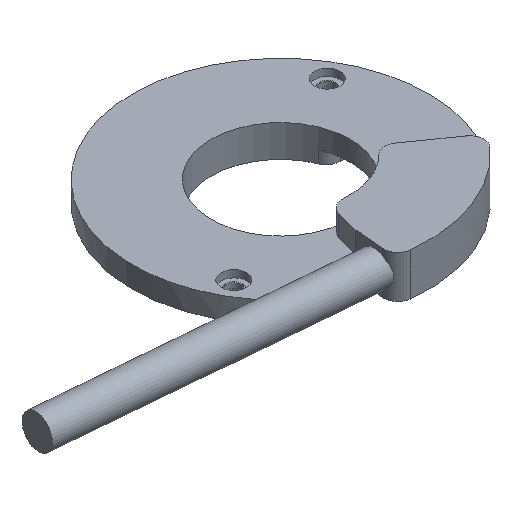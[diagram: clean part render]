
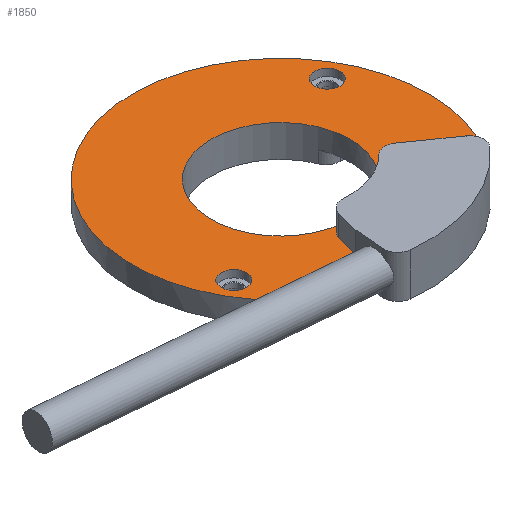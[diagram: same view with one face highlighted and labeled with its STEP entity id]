
A CAD part, isometric view. The second image highlights one B-rep face of the part: STEP entity #1850.
In plain terms, the highlighted planar face has unit normal (0, 0, 1).
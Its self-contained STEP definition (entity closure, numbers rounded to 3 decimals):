
#195=LINE('',#3244,#308);
#196=LINE('',#3246,#309);
#197=LINE('',#3254,#310);
#308=VECTOR('',#2658,1000.);
#309=VECTOR('',#2659,1000.);
#310=VECTOR('',#2666,1000.);
#677=ORIENTED_EDGE('',*,*,#1048,.T.);
#678=ORIENTED_EDGE('',*,*,#1049,.T.);
#679=ORIENTED_EDGE('',*,*,#1050,.F.);
#680=ORIENTED_EDGE('',*,*,#1051,.T.);
#681=ORIENTED_EDGE('',*,*,#1052,.F.);
#682=ORIENTED_EDGE('',*,*,#1053,.F.);
#683=ORIENTED_EDGE('',*,*,#1054,.T.);
#684=ORIENTED_EDGE('',*,*,#1055,.T.);
#685=ORIENTED_EDGE('',*,*,#1056,.T.);
#686=ORIENTED_EDGE('',*,*,#1057,.F.);
#687=ORIENTED_EDGE('',*,*,#1058,.T.);
#1048=EDGE_CURVE('',#1264,#1264,#1431,.T.);
#1049=EDGE_CURVE('',#1265,#1265,#1432,.T.);
#1050=EDGE_CURVE('',#1266,#1267,#1433,.T.);
#1051=EDGE_CURVE('',#1266,#1268,#1434,.F.);
#1052=EDGE_CURVE('',#1269,#1268,#195,.T.);
#1053=EDGE_CURVE('',#1270,#1269,#196,.T.);
#1054=EDGE_CURVE('',#1270,#1271,#1435,.T.);
#1055=EDGE_CURVE('',#1271,#1272,#1436,.T.);
#1056=EDGE_CURVE('',#1272,#1273,#1437,.T.);
#1057=EDGE_CURVE('',#1274,#1273,#197,.T.);
#1058=EDGE_CURVE('',#1274,#1267,#1438,.T.);
#1264=VERTEX_POINT('',#3236);
#1265=VERTEX_POINT('',#3238);
#1266=VERTEX_POINT('',#3240);
#1267=VERTEX_POINT('',#3241);
#1268=VERTEX_POINT('',#3243);
#1269=VERTEX_POINT('',#3245);
#1270=VERTEX_POINT('',#3247);
#1271=VERTEX_POINT('',#3249);
#1272=VERTEX_POINT('',#3251);
#1273=VERTEX_POINT('',#3253);
#1274=VERTEX_POINT('',#3255);
#1431=CIRCLE('',#2154,1.8);
#1432=CIRCLE('',#2155,1.8);
#1433=CIRCLE('',#2156,20.9);
#1434=CIRCLE('',#2157,2.);
#1435=CIRCLE('',#2158,2.);
#1436=CIRCLE('',#2159,9.8);
#1437=CIRCLE('',#2160,2.);
#1438=CIRCLE('',#2161,2.);
#1561=EDGE_LOOP('',(#677));
#1562=EDGE_LOOP('',(#678));
#1563=EDGE_LOOP('',(#679,#680,#681,#682,#683,#684,#685,#686,#687));
#1700=FACE_BOUND('',#1561,.T.);
#1701=FACE_BOUND('',#1562,.T.);
#1702=FACE_BOUND('',#1563,.T.);
#1770=PLANE('',#2153);
#1850=ADVANCED_FACE('',(#1700,#1701,#1702),#1770,.F.);
#2153=AXIS2_PLACEMENT_3D('',#3234,#2648,#2649);
#2154=AXIS2_PLACEMENT_3D('',#3235,#2650,#2651);
#2155=AXIS2_PLACEMENT_3D('',#3237,#2652,#2653);
#2156=AXIS2_PLACEMENT_3D('',#3239,#2654,#2655);
#2157=AXIS2_PLACEMENT_3D('',#3242,#2656,#2657);
#2158=AXIS2_PLACEMENT_3D('',#3248,#2660,#2661);
#2159=AXIS2_PLACEMENT_3D('',#3250,#2662,#2663);
#2160=AXIS2_PLACEMENT_3D('',#3252,#2664,#2665);
#2161=AXIS2_PLACEMENT_3D('',#3256,#2667,#2668);
#2648=DIRECTION('',(0.,0.,-1.));
#2649=DIRECTION('',(-1.,0.,0.));
#2650=DIRECTION('',(0.,0.,-1.));
#2651=DIRECTION('',(0.,-1.,0.));
#2652=DIRECTION('',(0.,0.,-1.));
#2653=DIRECTION('',(0.,-1.,0.));
#2654=DIRECTION('',(0.,0.,-1.));
#2655=DIRECTION('',(-1.,0.,0.));
#2656=DIRECTION('',(0.,0.,-1.));
#2657=DIRECTION('',(-1.,0.,0.));
#2658=DIRECTION('',(0.819,-0.574,0.));
#2659=DIRECTION('',(0.707,0.707,0.));
#2660=DIRECTION('',(0.,0.,-1.));
#2661=DIRECTION('',(-1.,0.,0.));
#2662=DIRECTION('',(0.,0.,-1.));
#2663=DIRECTION('',(-1.,0.,0.));
#2664=DIRECTION('',(0.,0.,-1.));
#2665=DIRECTION('',(-1.,0.,0.));
#2666=DIRECTION('',(0.423,-0.906,0.));
#2667=DIRECTION('',(0.,0.,-1.));
#2668=DIRECTION('',(-1.,0.,0.));
#3234=CARTESIAN_POINT('',(-9.8,0.,4.5));
#3235=CARTESIAN_POINT('',(-18.,0.,4.5));
#3236=CARTESIAN_POINT('',(-18.,-1.8,4.5));
#3237=CARTESIAN_POINT('',(18.,0.,4.5));
#3238=CARTESIAN_POINT('',(18.,-1.8,4.5));
#3239=CARTESIAN_POINT('',(0.,0.,4.5));
#3240=CARTESIAN_POINT('',(20.717,2.762,4.5));
#3241=CARTESIAN_POINT('',(-6.779,19.77,4.5));
#3242=CARTESIAN_POINT('',(18.734,2.497,4.5));
#3243=CARTESIAN_POINT('',(19.882,4.135,4.5));
#3244=CARTESIAN_POINT('',(1.927,16.725,4.5));
#3245=CARTESIAN_POINT('',(10.625,10.625,4.5));
#3246=CARTESIAN_POINT('',(6.93,6.93,4.5));
#3247=CARTESIAN_POINT('',(8.223,8.223,4.5));
#3248=CARTESIAN_POINT('',(6.809,9.637,4.5));
#3249=CARTESIAN_POINT('',(5.655,8.004,4.5));
#3250=CARTESIAN_POINT('',(0.,0.,4.5));
#3251=CARTESIAN_POINT('',(-2.576,9.455,4.5));
#3252=CARTESIAN_POINT('',(-3.102,11.385,4.5));
#3253=CARTESIAN_POINT('',(-4.915,10.54,4.5));
#3254=CARTESIAN_POINT('',(-4.142,8.882,4.5));
#3255=CARTESIAN_POINT('',(-7.943,17.033,4.5));
#3256=CARTESIAN_POINT('',(-6.13,17.878,4.5));
